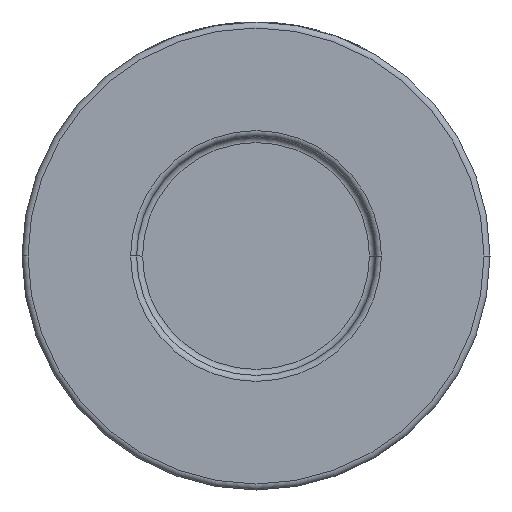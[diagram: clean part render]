
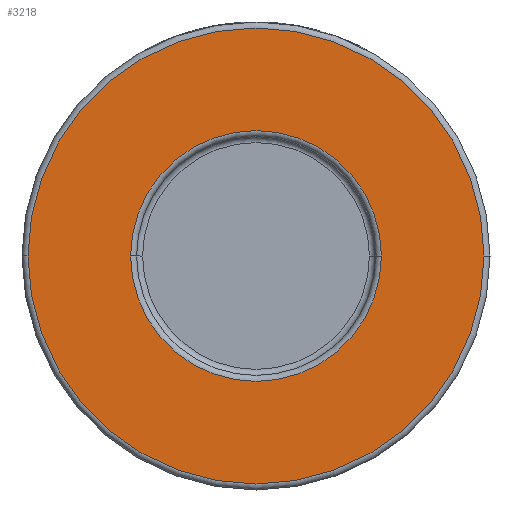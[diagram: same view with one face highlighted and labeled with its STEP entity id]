
A CAD part, front view. The second image highlights one B-rep face of the part: STEP entity #3218.
In plain terms, the highlighted planar face has unit normal (0, -1, 0).
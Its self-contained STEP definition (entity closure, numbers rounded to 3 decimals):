
#480 = EDGE_LOOP ( 'NONE', ( #2165, #2207 ) ) ;
#620 = CIRCLE ( 'NONE', #3186, 38. ) ;
#622 = DIRECTION ( 'NONE',  ( 0., -1., 0. ) ) ;
#685 = DIRECTION ( 'NONE',  ( 1., 0., 0. ) ) ;
#848 = CIRCLE ( 'NONE', #2610, 20.9 ) ;
#1052 = CARTESIAN_POINT ( 'NONE',  ( 0., -26., 0. ) ) ;
#1229 = AXIS2_PLACEMENT_3D ( 'NONE', #4204, #622, #2442 ) ;
#1284 = CARTESIAN_POINT ( 'NONE',  ( 38., -26., 0. ) ) ;
#1335 = ORIENTED_EDGE ( 'NONE', *, *, #2971, .T. ) ;
#1381 = ORIENTED_EDGE ( 'NONE', *, *, #1482, .T. ) ;
#1407 = FACE_BOUND ( 'NONE', #480, .T. ) ;
#1454 = AXIS2_PLACEMENT_3D ( 'NONE', #3208, #2180, #685 ) ;
#1481 = VERTEX_POINT ( 'NONE', #3409 ) ;
#1482 = EDGE_CURVE ( 'NONE', #1481, #2586, #620, .T. ) ;
#1561 = EDGE_CURVE ( 'NONE', #2478, #2620, #848, .T. ) ;
#1567 = EDGE_CURVE ( 'NONE', #2620, #2478, #3192, .T. ) ;
#1669 = CARTESIAN_POINT ( 'NONE',  ( 0., -26., 0. ) ) ;
#1691 = DIRECTION ( 'NONE',  ( 1., 0., 0. ) ) ;
#1758 = CARTESIAN_POINT ( 'NONE',  ( -20.9, -26., 0. ) ) ;
#1882 = AXIS2_PLACEMENT_3D ( 'NONE', #1052, #2431, #2456 ) ;
#2075 = PLANE ( 'NONE',  #1229 ) ;
#2165 = ORIENTED_EDGE ( 'NONE', *, *, #1567, .T. ) ;
#2180 = DIRECTION ( 'NONE',  ( 0., -1., 0. ) ) ;
#2207 = ORIENTED_EDGE ( 'NONE', *, *, #1561, .T. ) ;
#2429 = EDGE_LOOP ( 'NONE', ( #1335, #1381 ) ) ;
#2431 = DIRECTION ( 'NONE',  ( 0., 1., 0. ) ) ;
#2442 = DIRECTION ( 'NONE',  ( 1., 0., 0. ) ) ;
#2456 = DIRECTION ( 'NONE',  ( 1., 0., 0. ) ) ;
#2478 = VERTEX_POINT ( 'NONE', #1758 ) ;
#2586 = VERTEX_POINT ( 'NONE', #1284 ) ;
#2610 = AXIS2_PLACEMENT_3D ( 'NONE', #3209, #3882, #2871 ) ;
#2620 = VERTEX_POINT ( 'NONE', #2642 ) ;
#2642 = CARTESIAN_POINT ( 'NONE',  ( 20.9, -26., 0. ) ) ;
#2871 = DIRECTION ( 'NONE',  ( 1., 0., 0. ) ) ;
#2971 = EDGE_CURVE ( 'NONE', #2586, #1481, #3418, .T. ) ;
#3186 = AXIS2_PLACEMENT_3D ( 'NONE', #1669, #4495, #1691 ) ;
#3192 = CIRCLE ( 'NONE', #1882, 20.9 ) ;
#3208 = CARTESIAN_POINT ( 'NONE',  ( 0., -26., 0. ) ) ;
#3209 = CARTESIAN_POINT ( 'NONE',  ( 0., -26., 0. ) ) ;
#3218 = ADVANCED_FACE ( 'NONE', ( #1407, #3444 ), #2075, .T. ) ;
#3409 = CARTESIAN_POINT ( 'NONE',  ( -38., -26., 0. ) ) ;
#3418 = CIRCLE ( 'NONE', #1454, 38. ) ;
#3444 = FACE_OUTER_BOUND ( 'NONE', #2429, .T. ) ;
#3882 = DIRECTION ( 'NONE',  ( 0., 1., 0. ) ) ;
#4204 = CARTESIAN_POINT ( 'NONE',  ( 39., -26., 0. ) ) ;
#4495 = DIRECTION ( 'NONE',  ( 0., -1., 0. ) ) ;
